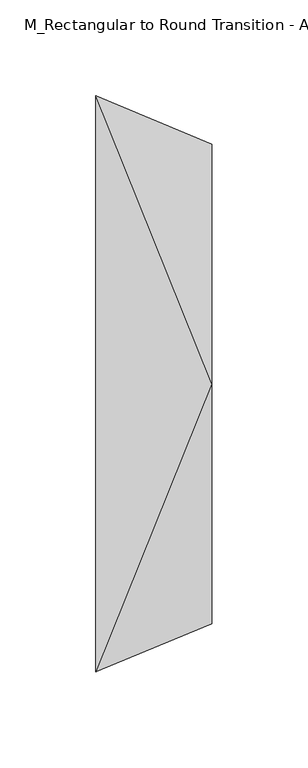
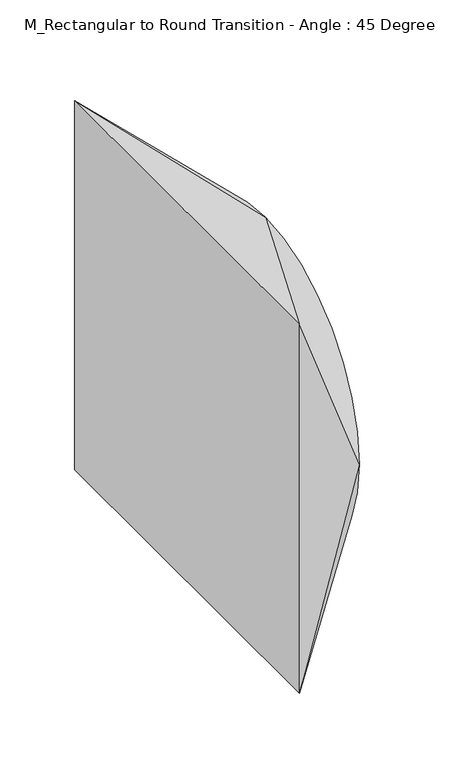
"""IFC4 building model written with IfcOpenShell, lengths in millimetres: duct fitting geometry, M_Rectangular to Round Transition - Angle : 45 Degree."""

from ifc_helpers import new_model, si_unit, frame, origin, place, context, project, spatial, circle_curve, source, transform, mapped, element, save
from ifc_brep_helpers import plane_surface, spline_surface, advanced_brep


def m_rectangular_to_round_transition_angle_45_degree_c30f01b8(model_context):
    return source(origin(), model_context, "Body", "AdvancedBrep", [
        advanced_brep(
        [(0.0, 150.0, -150.0), (0.0, -150.0, -150.0), (0.0, -150.0, 150.0), (0.0, 150.0, 150.0), (60.3553391, 125.0, 0.0), (60.3553391, 0.0, 125.0), (60.3553391, -125.0, 0.0), (60.3553391, 0.0, -125.0)],
        [
            (0, 1),
            (1, 2),
            (2, 3),
            (3, 0),
            (4, 5, circle_curve(frame((60.3553391, 0.0, 0.0), z_axis=(1.0, 0.0, 0.0), x_axis=(0.0, 1.0, 0.0)), 125.0)),
            (5, 6, circle_curve(frame((60.3553391, 0.0, 0.0), z_axis=(1.0, 0.0, 0.0), x_axis=(0.0, 1.0, 0.0)), 125.0)),
            (6, 7, circle_curve(frame((60.3553391, 0.0, 0.0), z_axis=(1.0, 0.0, 0.0), x_axis=(0.0, 1.0, 0.0)), 125.0)),
            (7, 4, circle_curve(frame((60.3553391, 0.0, 0.0), z_axis=(1.0, 0.0, 0.0), x_axis=(0.0, 1.0, 0.0)), 125.0)),
            (3, 4),
            (4, 0),
            (3, 5),
            (2, 5),
            (2, 6),
            (1, 6),
            (1, 7),
            (0, 7),
        ],
        [
            plane_surface(frame((0.0, 0.0, 0.0), z_axis=(-1.0, 0.0, 0.0), x_axis=(0.0, -1.0, 0.0))),
            plane_surface(frame((60.3553391, 0.0, 0.0), z_axis=(1.0, 0.0, 0.0), x_axis=(0.0, -1.0, 0.0))),
            plane_surface(frame((60.3553391, 125.0, 0.0), z_axis=(0.3826834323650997, 0.9238795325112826, 0.0), x_axis=(0.0, 0.0, 1.0))),
            spline_surface(1, 2, [[(60.3553391, 125.0, 0.0), (60.3553391, 125.0, 125.0), (60.3553391, 0.0, 125.0)], [(0.0, 150.0, 150.0), (0.0, 150.0, 150.0), (0.0, 150.0, 150.0)]], [2, 2], [3, 3], [0.0, 1.0], [0.0, 1.0], weights=[[1.0, 0.7071067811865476, 1.0], [1.0, 0.7071067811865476, 1.0]]),
            plane_surface(frame((60.3553391, 0.0, 125.0), z_axis=(0.3826834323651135, 0.0, 0.923879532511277), x_axis=(0.0, -1.0, 0.0))),
            spline_surface(1, 2, [[(60.3553391, 0.0, 125.0), (60.3553391, -125.0, 125.0), (60.3553391, -125.0, 0.0)], [(0.0, -150.0, 150.0), (0.0, -150.0, 150.0), (0.0, -150.0, 150.0)]], [2, 2], [3, 3], [0.0, 1.0], [0.0, 1.0], weights=[[1.0, 0.7071067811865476, 1.0], [1.0, 0.7071067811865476, 1.0]]),
            plane_surface(frame((60.3553391, -125.0, 0.0), z_axis=(0.3826834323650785, -0.9238795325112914, 0.0), x_axis=(0.0, 0.0, -1.0))),
            spline_surface(1, 2, [[(60.3553391, -125.0, 0.0), (60.3553391, -125.0, -125.0), (60.3553391, 0.0, -125.0)], [(0.0, -150.0, -150.0), (0.0, -150.0, -150.0), (0.0, -150.0, -150.0)]], [2, 2], [3, 3], [0.0, 1.0], [0.0, 1.0], weights=[[1.0, 0.7071067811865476, 1.0], [1.0, 0.7071067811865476, 1.0]]),
            plane_surface(frame((60.3553391, 0.0, -125.0), z_axis=(0.3826834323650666, 0.0, -0.9238795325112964), x_axis=(0.0, 1.0, 0.0))),
            spline_surface(1, 2, [[(60.3553391, 0.0, -125.0), (60.3553391, 125.0, -125.0), (60.3553391, 125.0, 0.0)], [(0.0, 150.0, -150.0), (0.0, 150.0, -150.0), (0.0, 150.0, -150.0)]], [2, 2], [3, 3], [0.0, 1.0], [0.0, 1.0], weights=[[1.0, 0.7071067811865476, 1.0], [1.0, 0.7071067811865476, 1.0]]),
        ],
        [
            (0, [[1, 2, 3, 4]]),
            (1, [[5, 6, 7, 8]]),
            (2, [[9, 10, -4]]),
            (3, [[-9, 11, -5]]),
            (4, [[12, -11, -3]]),
            (5, [[-12, 13, -6]]),
            (6, [[14, -13, -2]]),
            (7, [[-14, 15, -7]]),
            (8, [[16, -15, -1]]),
            (9, [[-16, -10, -8]]),
        ],
    ),
        advanced_brep(
        [(0.0, 150.0, -150.0), (0.0, -150.0, -150.0), (0.0, -150.0, 150.0), (0.0, 150.0, 150.0), (60.3553391, 125.0, 0.0), (60.3553391, 0.0, 125.0), (60.3553391, -125.0, 0.0), (60.3553391, 0.0, -125.0)],
        [
            (0, 1),
            (1, 2),
            (2, 3),
            (3, 0),
            (4, 5, circle_curve(frame((60.3553391, 0.0, 0.0), z_axis=(1.0, 0.0, 0.0), x_axis=(0.0, 1.0, 0.0)), 125.0)),
            (5, 6, circle_curve(frame((60.3553391, 0.0, 0.0), z_axis=(1.0, 0.0, 0.0), x_axis=(0.0, 1.0, 0.0)), 125.0)),
            (6, 7, circle_curve(frame((60.3553391, 0.0, 0.0), z_axis=(1.0, 0.0, 0.0), x_axis=(0.0, 1.0, 0.0)), 125.0)),
            (7, 4, circle_curve(frame((60.3553391, 0.0, 0.0), z_axis=(1.0, 0.0, 0.0), x_axis=(0.0, 1.0, 0.0)), 125.0)),
            (3, 4),
            (4, 0),
            (3, 5),
            (2, 5),
            (2, 6),
            (1, 6),
            (1, 7),
            (0, 7),
        ],
        [
            plane_surface(frame((0.0, 0.0, 0.0), z_axis=(-1.0, 0.0, 0.0), x_axis=(0.0, -1.0, 0.0))),
            plane_surface(frame((60.3553391, 0.0, 0.0), z_axis=(1.0, 0.0, 0.0), x_axis=(0.0, -1.0, 0.0))),
            plane_surface(frame((60.3553391, 125.0, 0.0), z_axis=(0.3826834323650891, 0.9238795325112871, 0.0), x_axis=(0.0, 0.0, 1.0))),
            spline_surface(1, 2, [[(60.3553391, 125.0, 0.0), (60.3553391, 125.0, 125.0), (60.3553391, 0.0, 125.0)], [(0.0, 150.0, 150.0), (0.0, 150.0, 150.0), (0.0, 150.0, 150.0)]], [2, 2], [3, 3], [0.0, 1.0], [0.0, 1.0], weights=[[1.0, 0.7071067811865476, 1.0], [1.0, 0.7071067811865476, 1.0]]),
            plane_surface(frame((60.3553391, 0.0, 125.0), z_axis=(0.3826834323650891, 0.0, 0.9238795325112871), x_axis=(0.0, -1.0, 0.0))),
            spline_surface(1, 2, [[(60.3553391, 0.0, 125.0), (60.3553391, -125.0, 125.0), (60.3553391, -125.0, 0.0)], [(0.0, -150.0, 150.0), (0.0, -150.0, 150.0), (0.0, -150.0, 150.0)]], [2, 2], [3, 3], [0.0, 1.0], [0.0, 1.0], weights=[[1.0, 0.7071067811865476, 1.0], [1.0, 0.7071067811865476, 1.0]]),
            plane_surface(frame((60.3553391, -125.0, 0.0), z_axis=(0.3826834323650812, -0.9238795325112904, 0.0), x_axis=(0.0, 0.0, -1.0))),
            spline_surface(1, 2, [[(60.3553391, -125.0, 0.0), (60.3553391, -125.0, -125.0), (60.3553391, 0.0, -125.0)], [(0.0, -150.0, -150.0), (0.0, -150.0, -150.0), (0.0, -150.0, -150.0)]], [2, 2], [3, 3], [0.0, 1.0], [0.0, 1.0], weights=[[1.0, 0.7071067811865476, 1.0], [1.0, 0.7071067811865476, 1.0]]),
            plane_surface(frame((60.3553391, 0.0, -125.0), z_axis=(0.3826834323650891, 0.0, -0.9238795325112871), x_axis=(0.0, 1.0, 0.0))),
            spline_surface(1, 2, [[(60.3553391, 0.0, -125.0), (60.3553391, 125.0, -125.0), (60.3553391, 125.0, 0.0)], [(0.0, 150.0, -150.0), (0.0, 150.0, -150.0), (0.0, 150.0, -150.0)]], [2, 2], [3, 3], [0.0, 1.0], [0.0, 1.0], weights=[[1.0, 0.7071067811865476, 1.0], [1.0, 0.7071067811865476, 1.0]]),
        ],
        [
            (0, [[1, 2, 3, 4]]),
            (1, [[5, 6, 7, 8]]),
            (2, [[9, 10, -4]]),
            (3, [[-9, 11, -5]]),
            (4, [[12, -11, -3]]),
            (5, [[-12, 13, -6]]),
            (6, [[14, -13, -2]]),
            (7, [[-14, 15, -7]]),
            (8, [[16, -15, -1]]),
            (9, [[-16, -10, -8]]),
        ],
    ),
        advanced_brep(
        [(60.3553391, 0.0, 125.0), (60.3553391, -125.0, 0.0), (60.3553391, 0.0, -125.0), (60.3553391, 125.0, 0.0), (0.0, 150.0, 150.0), (0.0, 150.0, -150.0), (0.0, -150.0, -150.0), (0.0, -150.0, 150.0)],
        [
            (0, 1, circle_curve(frame((60.3553391, 0.0, 0.0), z_axis=(1.0, 0.0, 0.0), x_axis=(0.0, -1.0, 0.0)), 125.0)),
            (1, 2, circle_curve(frame((60.3553391, 0.0, 0.0), z_axis=(1.0, 0.0, 0.0), x_axis=(0.0, -1.0, 0.0)), 125.0)),
            (2, 3, circle_curve(frame((60.3553391, 0.0, 0.0), z_axis=(1.0, 0.0, 0.0), x_axis=(0.0, -1.0, 0.0)), 125.0)),
            (3, 0, circle_curve(frame((60.3553391, 0.0, 0.0), z_axis=(1.0, 0.0, 0.0), x_axis=(0.0, -1.0, 0.0)), 125.0)),
            (4, 5),
            (5, 6),
            (6, 7),
            (7, 4),
            (3, 4),
            (4, 0),
            (3, 5),
            (2, 5),
            (2, 6),
            (1, 6),
            (1, 7),
            (0, 7),
        ],
        [
            plane_surface(frame((60.3553391, 0.0, 0.0), z_axis=(1.0, 0.0, 0.0), x_axis=(0.0, 0.0, -1.0))),
            plane_surface(frame((0.0, 0.0, 0.0), z_axis=(-1.0, 0.0, 0.0), x_axis=(0.0, 0.0, -1.0))),
            spline_surface(1, 2, [[(0.0, 150.0, 150.0), (0.0, 150.0, 150.0), (0.0, 150.0, 150.0)], [(60.3553391, 0.0, 125.0), (60.3553391, 125.0, 125.0), (60.3553391, 125.0, 0.0)]], [2, 2], [3, 3], [0.0, 1.0], [0.0, 1.0], weights=[[1.0, 0.7071067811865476, 1.0], [1.0, 0.7071067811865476, 1.0]]),
            plane_surface(frame((0.0, 150.0, 0.0), z_axis=(0.3826834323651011, 0.9238795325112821, 0.0), x_axis=(0.0, 0.0, -1.0))),
            spline_surface(1, 2, [[(0.0, 150.0, -150.0), (0.0, 150.0, -150.0), (0.0, 150.0, -150.0)], [(60.3553391, 125.0, 0.0), (60.3553391, 125.0, -125.0), (60.3553391, 0.0, -125.0)]], [2, 2], [3, 3], [0.0, 1.0], [0.0, 1.0], weights=[[1.0, 0.7071067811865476, 1.0], [1.0, 0.7071067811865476, 1.0]]),
            plane_surface(frame((0.0, 0.0, -150.0), z_axis=(0.38268343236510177, 0.0, -0.9238795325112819), x_axis=(0.0, -1.0, 0.0))),
            spline_surface(1, 2, [[(0.0, -150.0, -150.0), (0.0, -150.0, -150.0), (0.0, -150.0, -150.0)], [(60.3553391, 0.0, -125.0), (60.3553391, -125.0, -125.0), (60.3553391, -125.0, 0.0)]], [2, 2], [3, 3], [0.0, 1.0], [0.0, 1.0], weights=[[1.0, 0.7071067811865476, 1.0], [1.0, 0.7071067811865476, 1.0]]),
            plane_surface(frame((0.0, -150.0, 0.0), z_axis=(0.3826834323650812, -0.9238795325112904, 0.0), x_axis=(0.0, 0.0, 1.0))),
            spline_surface(1, 2, [[(0.0, -150.0, 150.0), (0.0, -150.0, 150.0), (0.0, -150.0, 150.0)], [(60.3553391, -125.0, 0.0), (60.3553391, -125.0, 125.0), (60.3553391, 0.0, 125.0)]], [2, 2], [3, 3], [0.0, 1.0], [0.0, 1.0], weights=[[1.0, 0.7071067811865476, 1.0], [1.0, 0.7071067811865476, 1.0]]),
            plane_surface(frame((0.0, 0.0, 150.0), z_axis=(0.3826834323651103, 0.0, 0.9238795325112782), x_axis=(0.0, 1.0, 0.0))),
        ],
        [
            (0, [[1, 2, 3, 4]]),
            (1, [[5, 6, 7, 8]]),
            (2, [[9, 10, -4]]),
            (3, [[-9, 11, -5]]),
            (4, [[12, -11, -3]]),
            (5, [[-12, 13, -6]]),
            (6, [[14, -13, -2]]),
            (7, [[-14, 15, -7]]),
            (8, [[16, -15, -1]]),
            (9, [[-16, -10, -8]]),
        ],
    ),
    ])


if __name__ == "__main__":
    model = new_model("IFC4")
    model_context = context("Model", 3, world=origin())
    ifc_project = project(units=[si_unit("LENGTHUNIT", "METRE", prefix="MILLI")], contexts=[model_context])
    site = spatial("IfcSite", under=ifc_project)
    building = spatial("IfcBuilding", under=site)
    placement = place(None, origin())
    m_rectangular_to_round_transition_angle_45_degree_shape = m_rectangular_to_round_transition_angle_45_degree_c30f01b8(model_context)
    element("IfcDuctFitting", 1, ObjectType="M_Rectangular to Round Transition - Angle : 45 Degree", at=placement, inside=building, context=model_context, shape_type="MappedRepresentation", body=[
        mapped(m_rectangular_to_round_transition_angle_45_degree_shape, transform((0.0, 0.0, 0.0), x_axis=(1.0, 0.0, 0.0), y_axis=(0.0, 1.0, 0.0), z_axis=(0.0, 0.0, 1.0))),
    ])
    save(model, "model.ifc")
